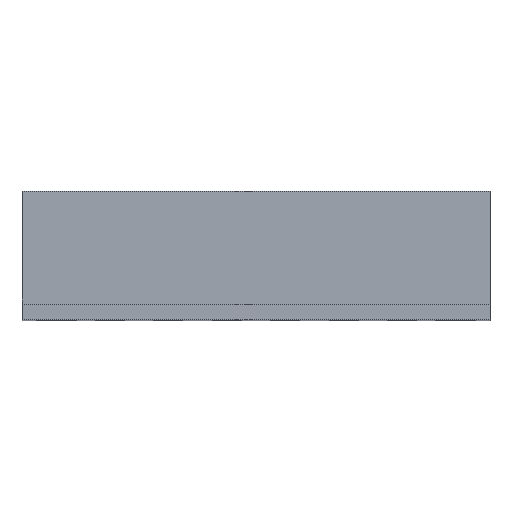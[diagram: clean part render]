
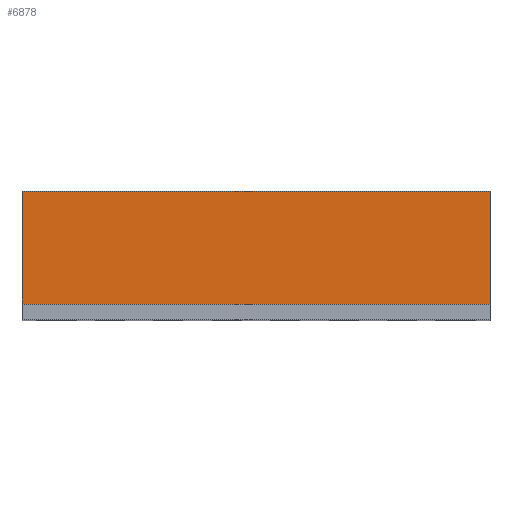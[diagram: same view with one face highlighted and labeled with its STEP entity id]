
A CAD part, top view. The second image highlights one B-rep face of the part: STEP entity #6878.
In plain terms, the highlighted planar face has unit normal (0, 0, 1).
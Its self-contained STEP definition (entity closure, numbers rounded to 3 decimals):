
#423 = CARTESIAN_POINT ( 'NONE',  ( 2., 0.136, 2. ) ) ;
#666 = CARTESIAN_POINT ( 'NONE',  ( 2., 1.1, 2. ) ) ;
#845 = DIRECTION ( 'NONE',  ( -1., 0., 0. ) ) ;
#1347 = VECTOR ( 'NONE', #7738, 1000. ) ;
#1432 = LINE ( 'NONE', #5529, #3855 ) ;
#1472 = FACE_OUTER_BOUND ( 'NONE', #6236, .T. ) ;
#1509 = EDGE_CURVE ( 'NONE', #7471, #5557, #3828, .T. ) ;
#1944 = ORIENTED_EDGE ( 'NONE', *, *, #1509, .T. ) ;
#1960 = CARTESIAN_POINT ( 'NONE',  ( -2., 1.1, 2. ) ) ;
#2266 = VERTEX_POINT ( 'NONE', #423 ) ;
#2438 = EDGE_CURVE ( 'NONE', #7471, #7714, #5851, .T. ) ;
#2439 = VECTOR ( 'NONE', #5791, 1000. ) ;
#2772 = DIRECTION ( 'NONE',  ( 0., 0., -1. ) ) ;
#3195 = VECTOR ( 'NONE', #5146, 1000. ) ;
#3384 = CARTESIAN_POINT ( 'NONE',  ( -2., 0.136, 2. ) ) ;
#3828 = LINE ( 'NONE', #1960, #2439 ) ;
#3855 = VECTOR ( 'NONE', #7691, 1000. ) ;
#4036 = ORIENTED_EDGE ( 'NONE', *, *, #4058, .F. ) ;
#4058 = EDGE_CURVE ( 'NONE', #7714, #2266, #5354, .T. ) ;
#4194 = ORIENTED_EDGE ( 'NONE', *, *, #2438, .F. ) ;
#4486 = PLANE ( 'NONE',  #6885 ) ;
#4632 = CARTESIAN_POINT ( 'NONE',  ( -2., 1.1, 2. ) ) ;
#5146 = DIRECTION ( 'NONE',  ( 1., 0., 0. ) ) ;
#5221 = CARTESIAN_POINT ( 'NONE',  ( 2., 1.1, 2. ) ) ;
#5354 = LINE ( 'NONE', #5221, #1347 ) ;
#5529 = CARTESIAN_POINT ( 'NONE',  ( -2., 0.136, 2. ) ) ;
#5557 = VERTEX_POINT ( 'NONE', #3384 ) ;
#5728 = EDGE_CURVE ( 'NONE', #5557, #2266, #1432, .T. ) ;
#5791 = DIRECTION ( 'NONE',  ( 0., -1., 0. ) ) ;
#5851 = LINE ( 'NONE', #7084, #3195 ) ;
#6236 = EDGE_LOOP ( 'NONE', ( #1944, #8081, #4036, #4194 ) ) ;
#6878 = ADVANCED_FACE ( 'NONE', ( #1472 ), #4486, .F. ) ;
#6885 = AXIS2_PLACEMENT_3D ( 'NONE', #7775, #2772, #845 ) ;
#7084 = CARTESIAN_POINT ( 'NONE',  ( -2., 1.1, 2. ) ) ;
#7471 = VERTEX_POINT ( 'NONE', #4632 ) ;
#7691 = DIRECTION ( 'NONE',  ( 1., 0., 0. ) ) ;
#7714 = VERTEX_POINT ( 'NONE', #666 ) ;
#7738 = DIRECTION ( 'NONE',  ( 0., -1., 0. ) ) ;
#7775 = CARTESIAN_POINT ( 'NONE',  ( -2., 1.1, 2. ) ) ;
#8081 = ORIENTED_EDGE ( 'NONE', *, *, #5728, .T. ) ;
